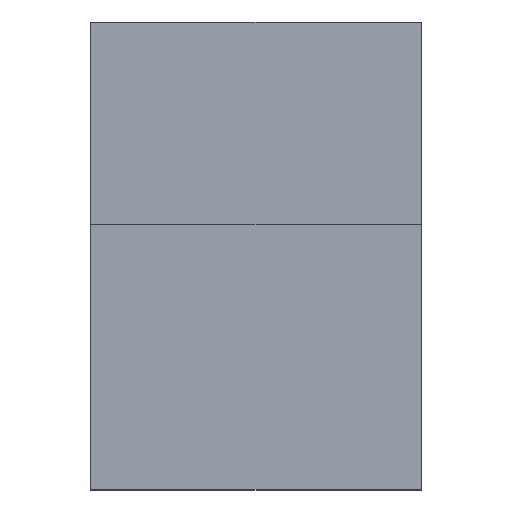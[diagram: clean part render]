
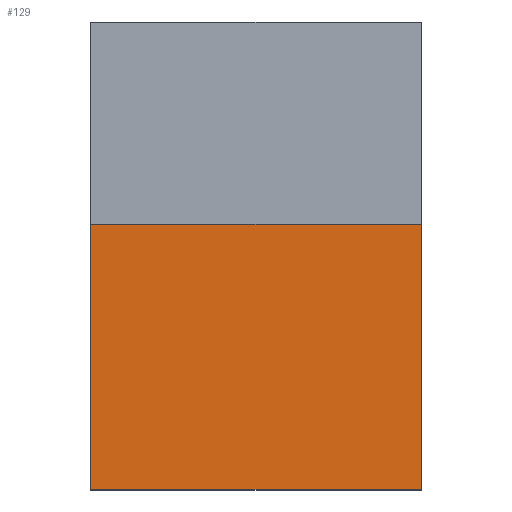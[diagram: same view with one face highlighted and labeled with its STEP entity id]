
A CAD part, top view. The second image highlights one B-rep face of the part: STEP entity #129.
In plain terms, the highlighted planar face has unit normal (0, 0, 1).
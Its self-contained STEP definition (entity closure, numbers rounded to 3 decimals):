
#116=FACE_OUTER_BOUND('',#276,.T.);
#129=ADVANCED_FACE('',(#116),#155,.F.);
#155=PLANE('',#527);
#165=LINE('',#692,#199);
#182=LINE('',#727,#216);
#187=LINE('',#739,#221);
#189=LINE('',#749,#223);
#199=VECTOR('',#567,1.);
#216=VECTOR('',#588,1.);
#221=VECTOR('',#603,1.);
#223=VECTOR('',#617,1.);
#276=EDGE_LOOP('',(#361,#362,#363,#364));
#361=ORIENTED_EDGE('',*,*,#477,.F.);
#362=ORIENTED_EDGE('',*,*,#452,.F.);
#363=ORIENTED_EDGE('',*,*,#481,.F.);
#364=ORIENTED_EDGE('',*,*,#470,.T.);
#412=VERTEX_POINT('',#691);
#413=VERTEX_POINT('',#693);
#420=VERTEX_POINT('',#709);
#428=VERTEX_POINT('',#726);
#452=EDGE_CURVE('',#412,#413,#165,.T.);
#470=EDGE_CURVE('',#420,#428,#182,.T.);
#477=EDGE_CURVE('',#413,#428,#187,.T.);
#481=EDGE_CURVE('',#420,#412,#189,.T.);
#527=AXIS2_PLACEMENT_3D('',#750,#618,#619);
#567=DIRECTION('',(0.,1.,0.));
#588=DIRECTION('',(0.,1.,0.));
#603=DIRECTION('',(1.,0.,0.));
#617=DIRECTION('',(-1.,0.,0.));
#618=DIRECTION('',(0.,0.,-1.));
#619=DIRECTION('',(-1.,0.,0.));
#691=CARTESIAN_POINT('',(0.,-40.,105.));
#692=CARTESIAN_POINT('',(0.,-40.,105.));
#693=CARTESIAN_POINT('',(0.,-4.,105.));
#709=CARTESIAN_POINT('',(45.,-40.,105.));
#726=CARTESIAN_POINT('',(45.,-4.,105.));
#727=CARTESIAN_POINT('',(45.,-40.,105.));
#739=CARTESIAN_POINT('',(22.5,-4.,105.));
#749=CARTESIAN_POINT('',(0.,-40.,105.));
#750=CARTESIAN_POINT('',(0.,-40.,105.));
